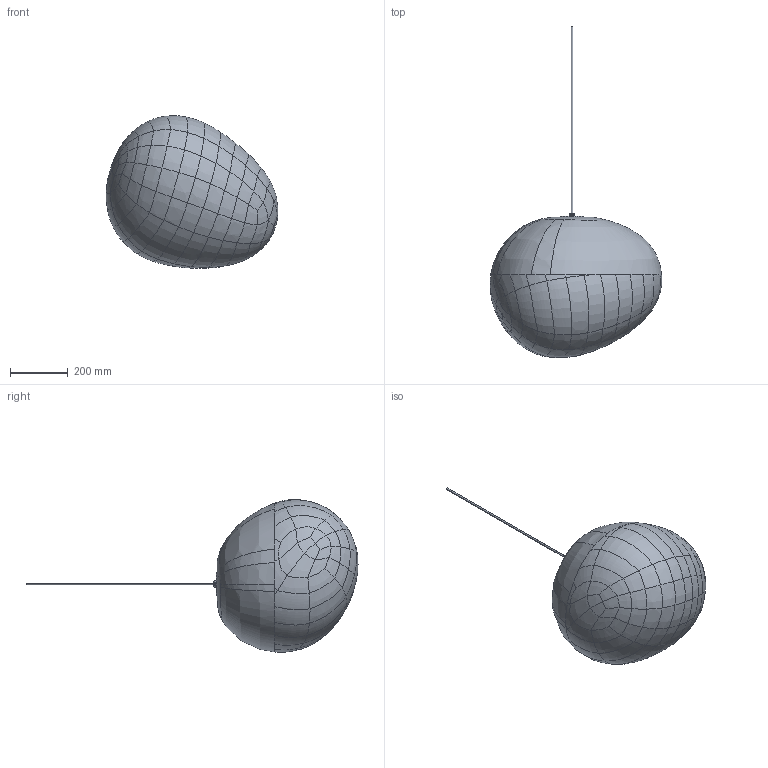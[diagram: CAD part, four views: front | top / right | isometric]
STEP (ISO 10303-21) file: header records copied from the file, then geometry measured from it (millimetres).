
FILE_DESCRIPTION (( 'STEP AP203' ), '1' );
FILE_NAME ('218_XL_OS_PL_3D.STEP', '2021-04-07T14:13:12', ( '' ), ( '' ), 'SwSTEP 2.0', 'SolidWorks 2021', '' );
FILE_SCHEMA (( 'CONFIG_CONTROL_DESIGN' ));
Products named in the file (1): 218_XL_OS_PL_3D
Bounding box: 595.78 x 1151.63 x 528.87 mm (x, y, z)
Surface area: 928822.6 mm2 (no closed solid volume)
Topology: 0 solids, 13 shells, 195 faces, 606 edges, 413 vertices
Faces by surface type: bspline 130, cylinder 24, plane 22, torus 8, cone 7, sphere 4
Entity records: 71165 total; most frequent: CARTESIAN_POINT 67081, ORIENTED_EDGE 991, EDGE_CURVE 598, B_SPLINE_CURVE_WITH_KNOTS 442, VERTEX_POINT 413, DIRECTION 367, EDGE_LOOP 214, ADVANCED_FACE 195
